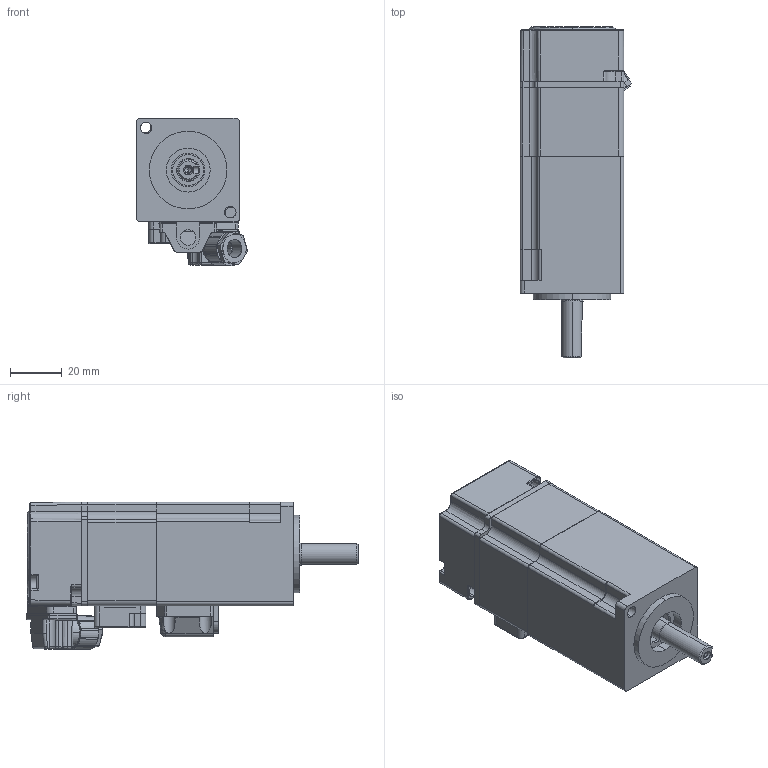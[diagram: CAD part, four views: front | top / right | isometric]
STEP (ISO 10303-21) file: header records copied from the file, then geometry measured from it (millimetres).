
FILE_DESCRIPTION (( 'STEP AP203' ), '1' );
FILE_NAME ('低压100w带制动三维.STEP', '2024-05-29T05:43:22', ( '' ), ( '' ), 'SwSTEP 2.0', 'SolidWorks 2022', '' );
FILE_SCHEMA (( 'CONFIG_CONTROL_DESIGN' ));
Length unit declared in the file: millimetre
Products named in the file (14): 密封垫; 40法兰机壳; 锁紧盖; 零件1; ZDA.900.006_40-引线盖板; 40制动器线盖; ZDA.900.005_40-密封垫; 郑工后盖; 40新制动罩; 低压100w带制动三维; 导线型后盖; 40插座后罩公模; 密封塞; 40法兰100w插座电机转轴
Assembly tree (13 placements, depth 3):
  低压100w带制动三维
    40法兰机壳
    40新制动罩
    40插座后罩公模
    40制动器线盖
    郑工后盖
    导线型后盖
      零件1
      密封塞
      锁紧盖
      密封垫
    40法兰100w插座电机转轴
    ZDA.900.005_40-密封垫
    ZDA.900.006_40-引线盖板
Bounding box: 43.02 x 128.31 x 57.04 mm (x, y, z)
Volume: 75223.1 mm3; surface area: 54255.7 mm2
Topology: 13 solids, 13 shells, 1043 faces, 2723 edges, 1698 vertices
Faces by surface type: cylinder 492, plane 361, cone 65, bspline 64, torus 38, sphere 23
Entity records: 37845 total; most frequent: CARTESIAN_POINT 10870, DIRECTION 5424, ORIENTED_EDGE 5338, EDGE_CURVE 2669, AXIS2_PLACEMENT_3D 2037, VERTEX_POINT 1698, LINE 1350, VECTOR 1350
